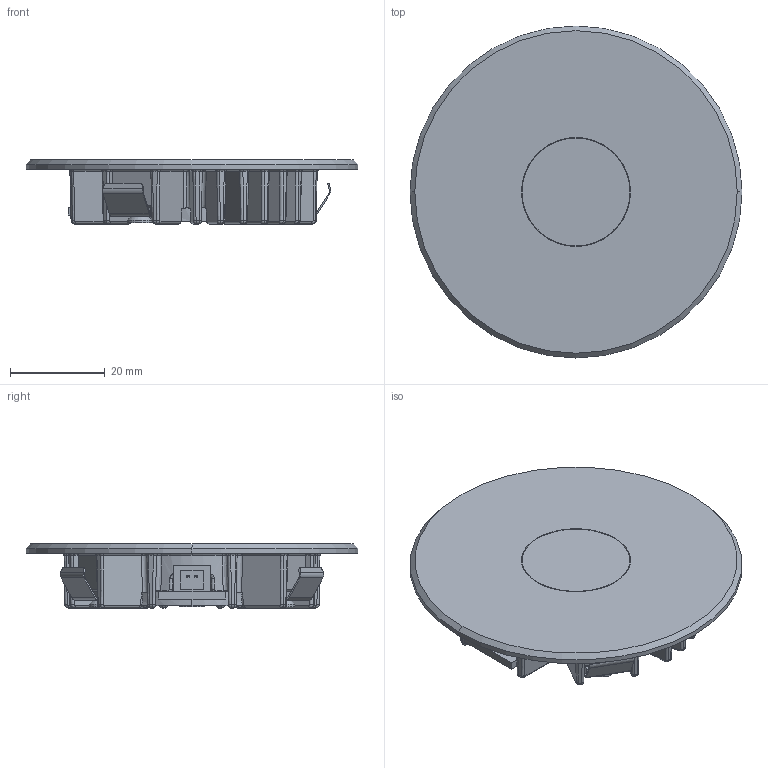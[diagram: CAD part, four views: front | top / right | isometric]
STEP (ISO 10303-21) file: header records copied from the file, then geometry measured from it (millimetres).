
FILE_DESCRIPTION(/* description */ (''),/* implementation_level */ '2;1');
FILE_NAME(/* name */ '5992541_step.stp',/* time_stamp */ '2019-07-30T07:57:46+02:00',/* author */ (''),/* organization */ (''),/* preprocessor_version */ 'ST-DEVELOPER v16.7',/* originating_system */ 'SIEMENS PLM Software NX 12.0',/* authorisation */ '');
FILE_SCHEMA (('AUTOMOTIVE_DESIGN { 1 0 10303 214 3 1 1 1 }'));
Products named in the file (1): p.sc2B04A93Aftuc
Bounding box: 70 x 70 x 13.5 mm (x, y, z)
Volume: 23798.2 mm3; surface area: 15195.8 mm2
Topology: 1 solids, 1 shells, 770 faces, 1926 edges, 1178 vertices
Faces by surface type: plane 250, bspline 228, cylinder 172, torus 66, cone 54
Entity records: 50426 total; most frequent: CARTESIAN_POINT 29395, ORIENTED_EDGE 3852, DIRECTION 3091, EDGE_CURVE 1926, VERTEX_POINT 1178, AXIS2_PLACEMENT_3D 1157, EDGE_LOOP 790, LINE 777
